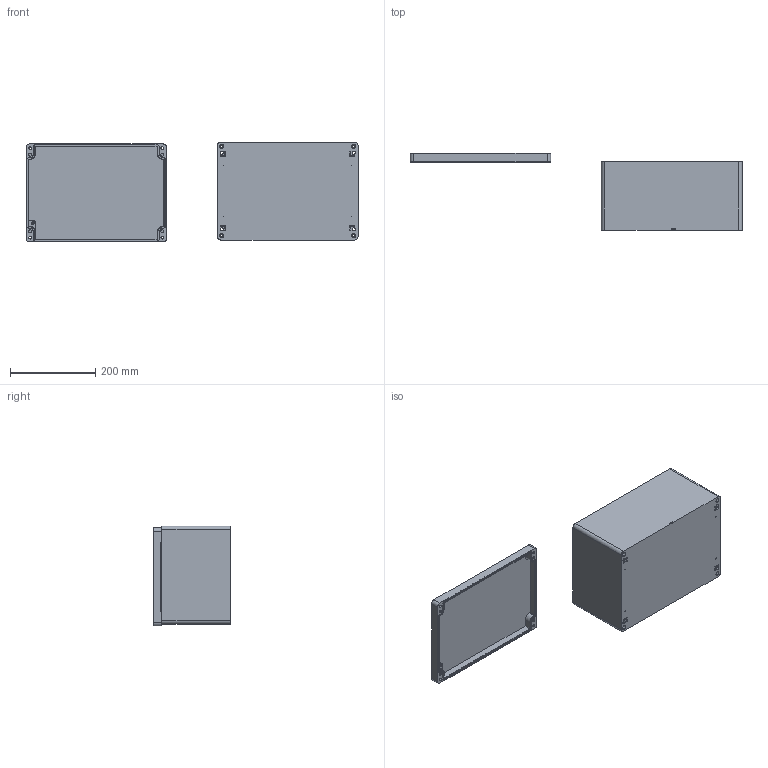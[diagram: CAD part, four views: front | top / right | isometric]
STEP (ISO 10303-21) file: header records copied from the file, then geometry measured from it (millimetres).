
FILE_DESCRIPTION (( 'STEP AP203' ), '1' );
FILE_NAME ('ZX-AL-233318_装配体.STEP', '2022-01-24T09:30:21', ( '微软用户' ), ( '微软中国' ), 'SwSTEP 2.0', 'SolidWorks 2020', '' );
FILE_SCHEMA (( 'CONFIG_CONTROL_DESIGN' ));
Length unit declared in the file: millimetre
Products named in the file (3): ZX-AL-233318_狟; ZX-AL-233318_奻; ZX-AL-233318_蚾饜极
Assembly tree (2 placements, depth 2):
  ZX-AL-233318_蚾饜极
    ZX-AL-233318_狟
    ZX-AL-233318_奻
Bounding box: 779.29 x 181 x 234.48 mm (x, y, z)
Volume: 1690870.5 mm3; surface area: 737241.5 mm2
Topology: 2 solids, 2 shells, 689 faces, 1850 edges, 1197 vertices
Faces by surface type: plane 342, cylinder 172, bspline 123, cone 52
Entity records: 27219 total; most frequent: CARTESIAN_POINT 10370, ORIENTED_EDGE 3656, DIRECTION 3026, EDGE_CURVE 1828, LINE 1232, VECTOR 1232, VERTEX_POINT 1197, AXIS2_PLACEMENT_3D 897
